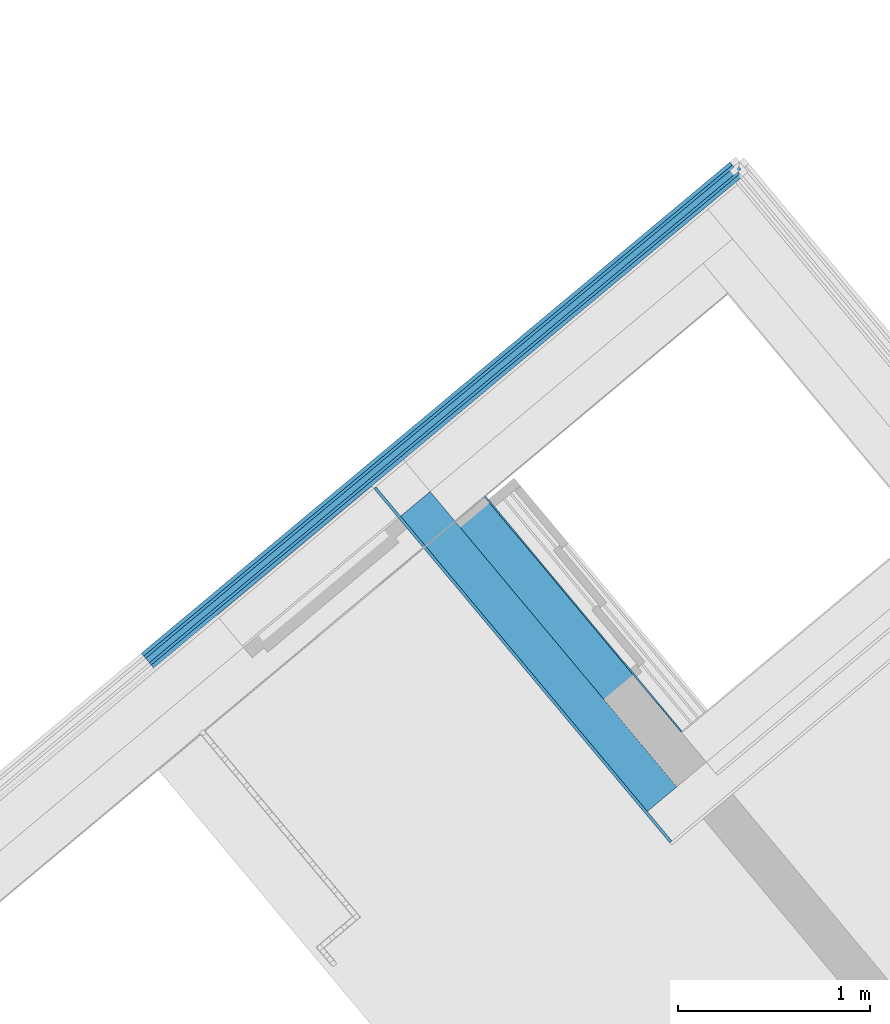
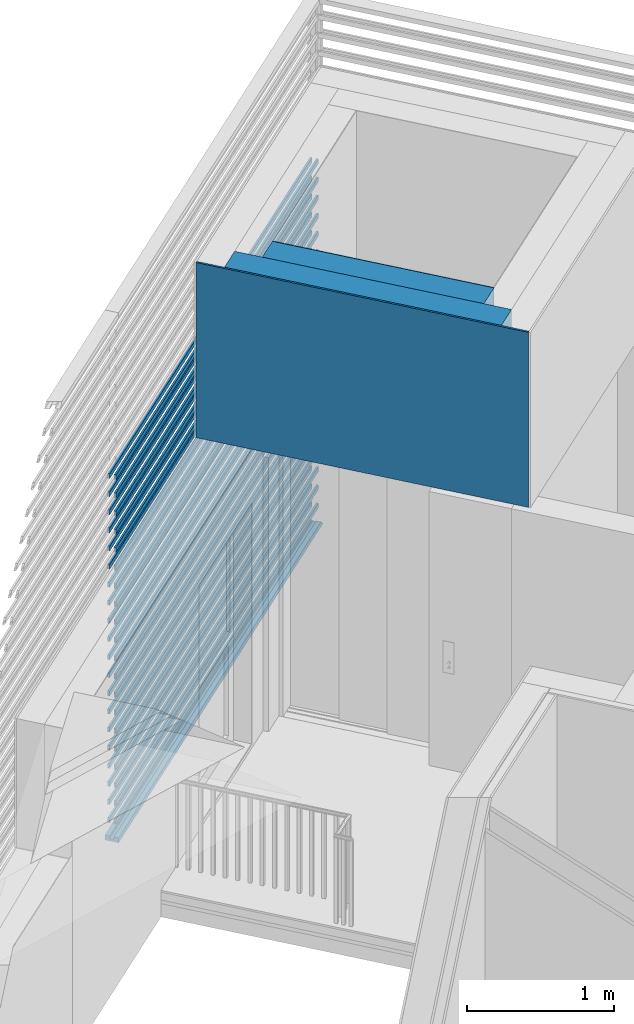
# One storey, part 26 of 47: 25 building element parts, 2 elements without a shape of their own.
"""IFC4 building model written with IfcOpenShell, lengths in metres."""

from ifc_helpers import new_model, entity, si_unit, converted_unit, derived_unit, direction, frame, origin_with_axes, place, context, subcontext, project, spatial, polygons, material, type_object, element, aggregate, save


model = new_model("IFC4")

# Units and contexts
model_context = context("Model", 3, precision=1e-05, world=origin_with_axes(), true_north=direction((0.0, 1.0)))
body_context = subcontext(model_context, "Body", "Model", "MODEL_VIEW")
ifc_project = project(units=[si_unit("LENGTHUNIT", "METRE"), si_unit("AREAUNIT", "SQUARE_METRE"), si_unit("VOLUMEUNIT", "CUBIC_METRE"), converted_unit("PLANEANGLEUNIT", "DEGREE", entity("IfcPlaneAngleMeasure", 0.0174532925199), si_unit("PLANEANGLEUNIT", "RADIAN"), dimensions=[0, 0, 0, 0, 0, 0, 0]), converted_unit("TIMEUNIT", "Year", entity("IfcTimeMeasure", 31556926.0), si_unit("TIMEUNIT", "SECOND"), dimensions=[0, 0, 1, 0, 0, 0, 0]), si_unit("MASSUNIT", "GRAM", prefix="KILO"), si_unit("THERMODYNAMICTEMPERATUREUNIT", "DEGREE_CELSIUS"), si_unit("LUMINOUSINTENSITYUNIT", "LUMEN"), si_unit("ENERGYUNIT", "JOULE", prefix="MEGA"), derived_unit("THERMALCONDUCTANCEUNIT", [(si_unit("POWERUNIT", "WATT"), 1), (si_unit("LENGTHUNIT", "METRE"), -1), (si_unit("THERMODYNAMICTEMPERATUREUNIT", "KELVIN"), -1)]), derived_unit("SPECIFICHEATCAPACITYUNIT", [(si_unit("ENERGYUNIT", "JOULE"), 1), (si_unit("MASSUNIT", "GRAM", prefix="KILO"), -1), (si_unit("THERMODYNAMICTEMPERATUREUNIT", "KELVIN"), -1)]), derived_unit("MASSDENSITYUNIT", [(si_unit("MASSUNIT", "GRAM", prefix="KILO"), 1), (si_unit("VOLUMEUNIT", "CUBIC_METRE"), -1)])], contexts=[model_context])

# Site, building, storey
site_placement = place(None, frame((-0.00153261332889, -0.00661245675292, 0.0), z_axis=(0.0, 0.0, 1.0), x_axis=(1.0, 0.0, 0.0)))
site = spatial("IfcSite", under=ifc_project, at=site_placement, Name="Site", CompositionType="ELEMENT")
building_placement = place(site_placement, origin_with_axes())
building = spatial("IfcBuilding", under=site, at=building_placement, Name="Building", CompositionType="ELEMENT")
storey_placement = place(building_placement, frame((0.0, 0.0, 8.66), z_axis=(0.0, 0.0, 1.0), x_axis=(1.0, 0.0, 0.0)))
storey = spatial("IfcBuildingStorey", under=building, at=storey_placement, Name="DG2", CompositionType="ELEMENT", Elevation=8.66)

# Curtain wall, building element parts
curtain_wall_type = type_object("IfcCurtainWallType", Name="Fassadentyp", PredefinedType="NOTDEFINED")
curtain_wall_placement = place(storey_placement, frame((-2.95253507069, 23.8775371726, 0.32), z_axis=(0.0, 0.0, 1.0), x_axis=(1.0, 0.0, 0.0)))
curtain_wall = element("IfcCurtainWall", 1, at=curtain_wall_placement, inside=storey, type_object=curtain_wall_type, Name="Fassade-001", PredefinedType="NOTDEFINED")
ifc_material_1 = material(Name="Blech")
building_element_part_1_placement = place(curtain_wall_placement, origin_with_axes())
building_element_part_1 = element("IfcBuildingElementPart", 2, at=building_element_part_1_placement, material=ifc_material_1, Name="Blech", PredefinedType="NOTDEFINED", context=body_context, shape_type="Tessellation", body=[
    polygons([(4.62335524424, 3.83828163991, 0.0), (4.60799902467, 3.8254681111, 0.02), (4.63042270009, 3.79859472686, 0.02), (4.66113513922, 3.82422178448, -0.02), (4.59706749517, 3.90100288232, -0.02), (4.56635505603, 3.8753758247, 0.02), (4.58877873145, 3.84850244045, 0.02), (4.60413495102, 3.86131596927, 0.0), (1.54752517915, 1.27174910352, 0.0), (1.54752517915, 1.27174910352, 0.02), (1.56994885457, 1.24487571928, 0.02), (1.56994885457, 1.24487571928, -0.02), (1.50588121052, 1.32165681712, -0.02), (1.50588121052, 1.32165681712, 0.02), (1.52830488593, 1.29478343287, 0.02), (1.52830488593, 1.29478343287, 0.0)], [[[1, 2, 3, 4, 5, 6, 7, 8]], [[1, 9, 10, 2]], [[10, 11, 3, 2]], [[11, 12, 4, 3]], [[12, 13, 5, 4]], [[13, 14, 6, 5]], [[7, 6, 14, 15]], [[15, 16, 8, 7]], [[8, 16, 9, 1]], [[9, 16, 15, 14, 13, 12, 11, 10]]], closed=True),
])
building_element_part_2_placement = place(curtain_wall_placement, origin_with_axes())
building_element_part_2 = element("IfcBuildingElementPart", 3, at=building_element_part_2_placement, material=ifc_material_1, Name="Blech", PredefinedType="NOTDEFINED", context=body_context, shape_type="Tessellation", body=[
    polygons([(1.54752517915, 1.27174910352, 2.4), (1.54752517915, 1.27174910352, 2.42), (4.60799902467, 3.8254681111, 2.42), (4.60799902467, 3.8254681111, 2.4), (4.60799902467, 3.8254681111, 2.38), (1.54752517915, 1.27174910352, 2.38), (1.55713532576, 1.26023193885, 2.38), (1.55713532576, 1.26023193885, 2.42), (4.61760917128, 3.81395094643, 2.42), (4.61760917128, 3.81395094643, 2.38)], [[[1, 2, 3, 4, 5, 6]], [[6, 7, 8, 2, 1]], [[3, 2, 8, 9]], [[4, 3, 9, 10, 5]], [[5, 10, 7, 6]], [[9, 8, 7, 10]]], closed=True),
    polygons([(4.58877873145, 3.84850244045, 2.38), (4.57916858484, 3.86001960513, 2.38), (4.57916858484, 3.86001960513, 2.42), (4.58877873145, 3.84850244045, 2.42), (4.58877873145, 3.84850244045, 2.4), (1.52830488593, 1.29478343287, 2.38), (1.51869473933, 1.30630059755, 2.38), (1.51869473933, 1.30630059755, 2.42), (1.52830488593, 1.29478343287, 2.42), (1.52830488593, 1.29478343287, 2.4)], [[[1, 2, 3, 4, 5]], [[6, 7, 2, 1]], [[2, 7, 8, 3]], [[9, 4, 3, 8]], [[5, 4, 9, 10, 6, 1]], [[10, 9, 8, 7, 6]]], closed=True),
])
building_element_part_3_placement = place(curtain_wall_placement, origin_with_axes())
building_element_part_3 = element("IfcBuildingElementPart", 4, at=building_element_part_3_placement, material=ifc_material_1, Name="Blech", PredefinedType="NOTDEFINED", context=body_context, shape_type="Tessellation", body=[
    polygons([(1.54752517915, 1.27174910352, 0.15), (1.54752517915, 1.27174910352, 0.17), (4.60799902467, 3.8254681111, 0.17), (4.60799902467, 3.8254681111, 0.15), (4.60799902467, 3.8254681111, 0.13), (1.54752517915, 1.27174910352, 0.13), (1.55713532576, 1.26023193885, 0.13), (1.55713532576, 1.26023193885, 0.17), (4.61760917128, 3.81395094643, 0.17), (4.61760917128, 3.81395094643, 0.13)], [[[1, 2, 3, 4, 5, 6]], [[6, 7, 8, 2, 1]], [[3, 2, 8, 9]], [[4, 3, 9, 10, 5]], [[5, 10, 7, 6]], [[9, 8, 7, 10]]], closed=True),
    polygons([(4.58877873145, 3.84850244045, 0.13), (4.57916858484, 3.86001960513, 0.13), (4.57916858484, 3.86001960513, 0.17), (4.58877873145, 3.84850244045, 0.17), (4.58877873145, 3.84850244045, 0.15), (1.52830488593, 1.29478343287, 0.13), (1.51869473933, 1.30630059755, 0.13), (1.51869473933, 1.30630059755, 0.17), (1.52830488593, 1.29478343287, 0.17), (1.52830488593, 1.29478343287, 0.15)], [[[1, 2, 3, 4, 5]], [[6, 7, 2, 1]], [[2, 7, 8, 3]], [[9, 4, 3, 8]], [[5, 4, 9, 10, 6, 1]], [[10, 9, 8, 7, 6]]], closed=True),
])
building_element_part_4_placement = place(curtain_wall_placement, origin_with_axes())
building_element_part_4 = element("IfcBuildingElementPart", 5, at=building_element_part_4_placement, material=ifc_material_1, Name="Blech", PredefinedType="NOTDEFINED", context=body_context, shape_type="Tessellation", body=[
    polygons([(1.54752517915, 1.27174910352, 0.3), (1.54752517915, 1.27174910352, 0.32), (4.60799902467, 3.8254681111, 0.32), (4.60799902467, 3.8254681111, 0.3), (4.60799902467, 3.8254681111, 0.28), (1.54752517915, 1.27174910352, 0.28), (1.55713532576, 1.26023193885, 0.28), (1.55713532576, 1.26023193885, 0.32), (4.61760917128, 3.81395094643, 0.32), (4.61760917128, 3.81395094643, 0.28)], [[[1, 2, 3, 4, 5, 6]], [[6, 7, 8, 2, 1]], [[3, 2, 8, 9]], [[4, 3, 9, 10, 5]], [[5, 10, 7, 6]], [[9, 8, 7, 10]]], closed=True),
    polygons([(4.58877873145, 3.84850244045, 0.28), (4.57916858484, 3.86001960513, 0.28), (4.57916858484, 3.86001960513, 0.32), (4.58877873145, 3.84850244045, 0.32), (4.58877873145, 3.84850244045, 0.3), (1.52830488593, 1.29478343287, 0.28), (1.51869473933, 1.30630059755, 0.28), (1.51869473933, 1.30630059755, 0.32), (1.52830488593, 1.29478343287, 0.32), (1.52830488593, 1.29478343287, 0.3)], [[[1, 2, 3, 4, 5]], [[6, 7, 2, 1]], [[2, 7, 8, 3]], [[9, 4, 3, 8]], [[5, 4, 9, 10, 6, 1]], [[10, 9, 8, 7, 6]]], closed=True),
])
building_element_part_5_placement = place(curtain_wall_placement, origin_with_axes())
building_element_part_5 = element("IfcBuildingElementPart", 6, at=building_element_part_5_placement, material=ifc_material_1, Name="Blech", PredefinedType="NOTDEFINED", context=body_context, shape_type="Tessellation", body=[
    polygons([(1.54752517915, 1.27174910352, 3.0), (1.54752517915, 1.27174910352, 3.02), (4.60799902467, 3.8254681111, 3.02), (4.60799902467, 3.8254681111, 3.0), (4.60799902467, 3.8254681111, 2.98), (1.54752517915, 1.27174910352, 2.98), (1.55713532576, 1.26023193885, 2.98), (1.55713532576, 1.26023193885, 3.02), (4.61760917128, 3.81395094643, 3.02), (4.61760917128, 3.81395094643, 2.98)], [[[1, 2, 3, 4, 5, 6]], [[6, 7, 8, 2, 1]], [[3, 2, 8, 9]], [[4, 3, 9, 10, 5]], [[5, 10, 7, 6]], [[9, 8, 7, 10]]], closed=True),
    polygons([(4.58877873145, 3.84850244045, 2.98), (4.57916858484, 3.86001960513, 2.98), (4.57916858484, 3.86001960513, 3.02), (4.58877873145, 3.84850244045, 3.02), (4.58877873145, 3.84850244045, 3.0), (1.52830488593, 1.29478343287, 2.98), (1.51869473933, 1.30630059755, 2.98), (1.51869473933, 1.30630059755, 3.02), (1.52830488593, 1.29478343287, 3.02), (1.52830488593, 1.29478343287, 3.0)], [[[1, 2, 3, 4, 5]], [[6, 7, 2, 1]], [[2, 7, 8, 3]], [[9, 4, 3, 8]], [[5, 4, 9, 10, 6, 1]], [[10, 9, 8, 7, 6]]], closed=True),
])
building_element_part_6_placement = place(curtain_wall_placement, origin_with_axes())
building_element_part_6 = element("IfcBuildingElementPart", 7, at=building_element_part_6_placement, material=ifc_material_1, Name="Blech", PredefinedType="NOTDEFINED", context=body_context, shape_type="Tessellation", body=[
    polygons([(1.54752517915, 1.27174910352, 0.45), (1.54752517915, 1.27174910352, 0.47), (4.60799902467, 3.8254681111, 0.47), (4.60799902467, 3.8254681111, 0.45), (4.60799902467, 3.8254681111, 0.43), (1.54752517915, 1.27174910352, 0.43), (1.55713532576, 1.26023193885, 0.43), (1.55713532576, 1.26023193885, 0.47), (4.61760917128, 3.81395094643, 0.47), (4.61760917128, 3.81395094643, 0.43)], [[[1, 2, 3, 4, 5, 6]], [[6, 7, 8, 2, 1]], [[3, 2, 8, 9]], [[4, 3, 9, 10, 5]], [[5, 10, 7, 6]], [[9, 8, 7, 10]]], closed=True),
    polygons([(4.58877873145, 3.84850244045, 0.43), (4.57916858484, 3.86001960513, 0.43), (4.57916858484, 3.86001960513, 0.47), (4.58877873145, 3.84850244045, 0.47), (4.58877873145, 3.84850244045, 0.45), (1.52830488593, 1.29478343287, 0.43), (1.51869473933, 1.30630059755, 0.43), (1.51869473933, 1.30630059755, 0.47), (1.52830488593, 1.29478343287, 0.47), (1.52830488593, 1.29478343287, 0.45)], [[[1, 2, 3, 4, 5]], [[6, 7, 2, 1]], [[2, 7, 8, 3]], [[9, 4, 3, 8]], [[5, 4, 9, 10, 6, 1]], [[10, 9, 8, 7, 6]]], closed=True),
])
building_element_part_7_placement = place(curtain_wall_placement, origin_with_axes())
building_element_part_7 = element("IfcBuildingElementPart", 8, at=building_element_part_7_placement, material=ifc_material_1, Name="Blech", PredefinedType="NOTDEFINED", context=body_context, shape_type="Tessellation", body=[
    polygons([(1.54752517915, 1.27174910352, 2.85), (1.54752517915, 1.27174910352, 2.87), (4.60799902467, 3.8254681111, 2.87), (4.60799902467, 3.8254681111, 2.85), (4.60799902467, 3.8254681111, 2.83), (1.54752517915, 1.27174910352, 2.83), (1.55713532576, 1.26023193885, 2.83), (1.55713532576, 1.26023193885, 2.87), (4.61760917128, 3.81395094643, 2.87), (4.61760917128, 3.81395094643, 2.83)], [[[1, 2, 3, 4, 5, 6]], [[6, 7, 8, 2, 1]], [[3, 2, 8, 9]], [[4, 3, 9, 10, 5]], [[5, 10, 7, 6]], [[9, 8, 7, 10]]], closed=True),
    polygons([(4.58877873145, 3.84850244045, 2.83), (4.57916858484, 3.86001960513, 2.83), (4.57916858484, 3.86001960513, 2.87), (4.58877873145, 3.84850244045, 2.87), (4.58877873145, 3.84850244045, 2.85), (1.52830488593, 1.29478343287, 2.83), (1.51869473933, 1.30630059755, 2.83), (1.51869473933, 1.30630059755, 2.87), (1.52830488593, 1.29478343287, 2.87), (1.52830488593, 1.29478343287, 2.85)], [[[1, 2, 3, 4, 5]], [[6, 7, 2, 1]], [[2, 7, 8, 3]], [[9, 4, 3, 8]], [[5, 4, 9, 10, 6, 1]], [[10, 9, 8, 7, 6]]], closed=True),
])
building_element_part_8_placement = place(curtain_wall_placement, origin_with_axes())
building_element_part_8 = element("IfcBuildingElementPart", 9, at=building_element_part_8_placement, material=ifc_material_1, Name="Blech", PredefinedType="NOTDEFINED", context=body_context, shape_type="Tessellation", body=[
    polygons([(1.54752517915, 1.27174910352, 0.6), (1.54752517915, 1.27174910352, 0.62), (4.60799902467, 3.8254681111, 0.62), (4.60799902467, 3.8254681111, 0.6), (4.60799902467, 3.8254681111, 0.58), (1.54752517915, 1.27174910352, 0.58), (1.55713532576, 1.26023193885, 0.58), (1.55713532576, 1.26023193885, 0.62), (4.61760917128, 3.81395094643, 0.62), (4.61760917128, 3.81395094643, 0.58)], [[[1, 2, 3, 4, 5, 6]], [[6, 7, 8, 2, 1]], [[3, 2, 8, 9]], [[4, 3, 9, 10, 5]], [[5, 10, 7, 6]], [[9, 8, 7, 10]]], closed=True),
    polygons([(4.58877873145, 3.84850244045, 0.58), (4.57916858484, 3.86001960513, 0.58), (4.57916858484, 3.86001960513, 0.62), (4.58877873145, 3.84850244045, 0.62), (4.58877873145, 3.84850244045, 0.6), (1.52830488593, 1.29478343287, 0.58), (1.51869473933, 1.30630059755, 0.58), (1.51869473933, 1.30630059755, 0.62), (1.52830488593, 1.29478343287, 0.62), (1.52830488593, 1.29478343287, 0.6)], [[[1, 2, 3, 4, 5]], [[6, 7, 2, 1]], [[2, 7, 8, 3]], [[9, 4, 3, 8]], [[5, 4, 9, 10, 6, 1]], [[10, 9, 8, 7, 6]]], closed=True),
])
building_element_part_9_placement = place(curtain_wall_placement, origin_with_axes())
building_element_part_9 = element("IfcBuildingElementPart", 10, at=building_element_part_9_placement, material=ifc_material_1, Name="Blech", PredefinedType="NOTDEFINED", context=body_context, shape_type="Tessellation", body=[
    polygons([(1.54752517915, 1.27174910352, 0.75), (1.54752517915, 1.27174910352, 0.77), (4.60799902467, 3.8254681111, 0.77), (4.60799902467, 3.8254681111, 0.75), (4.60799902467, 3.8254681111, 0.73), (1.54752517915, 1.27174910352, 0.73), (1.55713532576, 1.26023193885, 0.73), (1.55713532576, 1.26023193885, 0.77), (4.61760917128, 3.81395094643, 0.77), (4.61760917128, 3.81395094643, 0.73)], [[[1, 2, 3, 4, 5, 6]], [[6, 7, 8, 2, 1]], [[3, 2, 8, 9]], [[4, 3, 9, 10, 5]], [[5, 10, 7, 6]], [[9, 8, 7, 10]]], closed=True),
    polygons([(4.58877873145, 3.84850244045, 0.73), (4.57916858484, 3.86001960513, 0.73), (4.57916858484, 3.86001960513, 0.77), (4.58877873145, 3.84850244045, 0.77), (4.58877873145, 3.84850244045, 0.75), (1.52830488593, 1.29478343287, 0.73), (1.51869473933, 1.30630059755, 0.73), (1.51869473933, 1.30630059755, 0.77), (1.52830488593, 1.29478343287, 0.77), (1.52830488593, 1.29478343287, 0.75)], [[[1, 2, 3, 4, 5]], [[6, 7, 2, 1]], [[2, 7, 8, 3]], [[9, 4, 3, 8]], [[5, 4, 9, 10, 6, 1]], [[10, 9, 8, 7, 6]]], closed=True),
])
building_element_part_10_placement = place(curtain_wall_placement, origin_with_axes())
building_element_part_10 = element("IfcBuildingElementPart", 11, at=building_element_part_10_placement, material=ifc_material_1, Name="Blech", PredefinedType="NOTDEFINED", context=body_context, shape_type="Tessellation", body=[
    polygons([(1.54752517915, 1.27174910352, 0.9), (1.54752517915, 1.27174910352, 0.92), (4.60799902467, 3.8254681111, 0.92), (4.60799902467, 3.8254681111, 0.9), (4.60799902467, 3.8254681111, 0.88), (1.54752517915, 1.27174910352, 0.88), (1.55713532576, 1.26023193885, 0.88), (1.55713532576, 1.26023193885, 0.92), (4.61760917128, 3.81395094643, 0.92), (4.61760917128, 3.81395094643, 0.88)], [[[1, 2, 3, 4, 5, 6]], [[6, 7, 8, 2, 1]], [[3, 2, 8, 9]], [[4, 3, 9, 10, 5]], [[5, 10, 7, 6]], [[9, 8, 7, 10]]], closed=True),
    polygons([(4.58877873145, 3.84850244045, 0.88), (4.57916858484, 3.86001960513, 0.88), (4.57916858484, 3.86001960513, 0.92), (4.58877873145, 3.84850244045, 0.92), (4.58877873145, 3.84850244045, 0.9), (1.52830488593, 1.29478343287, 0.88), (1.51869473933, 1.30630059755, 0.88), (1.51869473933, 1.30630059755, 0.92), (1.52830488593, 1.29478343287, 0.92), (1.52830488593, 1.29478343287, 0.9)], [[[1, 2, 3, 4, 5]], [[6, 7, 2, 1]], [[2, 7, 8, 3]], [[9, 4, 3, 8]], [[5, 4, 9, 10, 6, 1]], [[10, 9, 8, 7, 6]]], closed=True),
])
building_element_part_11_placement = place(curtain_wall_placement, origin_with_axes())
building_element_part_11 = element("IfcBuildingElementPart", 12, at=building_element_part_11_placement, material=ifc_material_1, Name="Blech", PredefinedType="NOTDEFINED", context=body_context, shape_type="Tessellation", body=[
    polygons([(1.54752517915, 1.27174910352, 1.05), (1.54752517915, 1.27174910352, 1.07), (4.60799902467, 3.8254681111, 1.07), (4.60799902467, 3.8254681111, 1.05), (4.60799902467, 3.8254681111, 1.03), (1.54752517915, 1.27174910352, 1.03), (1.55713532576, 1.26023193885, 1.03), (1.55713532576, 1.26023193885, 1.07), (4.61760917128, 3.81395094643, 1.07), (4.61760917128, 3.81395094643, 1.03)], [[[1, 2, 3, 4, 5, 6]], [[6, 7, 8, 2, 1]], [[3, 2, 8, 9]], [[4, 3, 9, 10, 5]], [[5, 10, 7, 6]], [[9, 8, 7, 10]]], closed=True),
    polygons([(4.58877873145, 3.84850244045, 1.03), (4.57916858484, 3.86001960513, 1.03), (4.57916858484, 3.86001960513, 1.07), (4.58877873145, 3.84850244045, 1.07), (4.58877873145, 3.84850244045, 1.05), (1.52830488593, 1.29478343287, 1.03), (1.51869473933, 1.30630059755, 1.03), (1.51869473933, 1.30630059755, 1.07), (1.52830488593, 1.29478343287, 1.07), (1.52830488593, 1.29478343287, 1.05)], [[[1, 2, 3, 4, 5]], [[6, 7, 2, 1]], [[2, 7, 8, 3]], [[9, 4, 3, 8]], [[5, 4, 9, 10, 6, 1]], [[10, 9, 8, 7, 6]]], closed=True),
])
building_element_part_12_placement = place(curtain_wall_placement, origin_with_axes())
building_element_part_12 = element("IfcBuildingElementPart", 13, at=building_element_part_12_placement, material=ifc_material_1, Name="Blech", PredefinedType="NOTDEFINED", context=body_context, shape_type="Tessellation", body=[
    polygons([(1.54752517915, 1.27174910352, 2.7), (1.54752517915, 1.27174910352, 2.72), (4.60799902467, 3.8254681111, 2.72), (4.60799902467, 3.8254681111, 2.7), (4.60799902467, 3.8254681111, 2.68), (1.54752517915, 1.27174910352, 2.68), (1.55713532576, 1.26023193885, 2.68), (1.55713532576, 1.26023193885, 2.72), (4.61760917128, 3.81395094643, 2.72), (4.61760917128, 3.81395094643, 2.68)], [[[1, 2, 3, 4, 5, 6]], [[6, 7, 8, 2, 1]], [[3, 2, 8, 9]], [[4, 3, 9, 10, 5]], [[5, 10, 7, 6]], [[9, 8, 7, 10]]], closed=True),
    polygons([(4.58877873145, 3.84850244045, 2.68), (4.57916858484, 3.86001960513, 2.68), (4.57916858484, 3.86001960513, 2.72), (4.58877873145, 3.84850244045, 2.72), (4.58877873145, 3.84850244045, 2.7), (1.52830488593, 1.29478343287, 2.68), (1.51869473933, 1.30630059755, 2.68), (1.51869473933, 1.30630059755, 2.72), (1.52830488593, 1.29478343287, 2.72), (1.52830488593, 1.29478343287, 2.7)], [[[1, 2, 3, 4, 5]], [[6, 7, 2, 1]], [[2, 7, 8, 3]], [[9, 4, 3, 8]], [[5, 4, 9, 10, 6, 1]], [[10, 9, 8, 7, 6]]], closed=True),
])
building_element_part_13_placement = place(curtain_wall_placement, origin_with_axes())
building_element_part_13 = element("IfcBuildingElementPart", 14, at=building_element_part_13_placement, material=ifc_material_1, Name="Blech", PredefinedType="NOTDEFINED", context=body_context, shape_type="Tessellation", body=[
    polygons([(1.54752517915, 1.27174910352, 1.2), (1.54752517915, 1.27174910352, 1.22), (4.60799902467, 3.8254681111, 1.22), (4.60799902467, 3.8254681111, 1.2), (4.60799902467, 3.8254681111, 1.18), (1.54752517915, 1.27174910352, 1.18), (1.55713532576, 1.26023193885, 1.18), (1.55713532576, 1.26023193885, 1.22), (4.61760917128, 3.81395094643, 1.22), (4.61760917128, 3.81395094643, 1.18)], [[[1, 2, 3, 4, 5, 6]], [[6, 7, 8, 2, 1]], [[3, 2, 8, 9]], [[4, 3, 9, 10, 5]], [[5, 10, 7, 6]], [[9, 8, 7, 10]]], closed=True),
    polygons([(4.58877873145, 3.84850244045, 1.18), (4.57916858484, 3.86001960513, 1.18), (4.57916858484, 3.86001960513, 1.22), (4.58877873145, 3.84850244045, 1.22), (4.58877873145, 3.84850244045, 1.2), (1.52830488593, 1.29478343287, 1.18), (1.51869473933, 1.30630059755, 1.18), (1.51869473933, 1.30630059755, 1.22), (1.52830488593, 1.29478343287, 1.22), (1.52830488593, 1.29478343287, 1.2)], [[[1, 2, 3, 4, 5]], [[6, 7, 2, 1]], [[2, 7, 8, 3]], [[9, 4, 3, 8]], [[5, 4, 9, 10, 6, 1]], [[10, 9, 8, 7, 6]]], closed=True),
])
building_element_part_14_placement = place(curtain_wall_placement, origin_with_axes())
building_element_part_14 = element("IfcBuildingElementPart", 15, at=building_element_part_14_placement, material=ifc_material_1, Name="Blech", PredefinedType="NOTDEFINED", context=body_context, shape_type="Tessellation", body=[
    polygons([(1.54752517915, 1.27174910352, 1.35), (1.54752517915, 1.27174910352, 1.37), (4.60799902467, 3.8254681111, 1.37), (4.60799902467, 3.8254681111, 1.35), (4.60799902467, 3.8254681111, 1.33), (1.54752517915, 1.27174910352, 1.33), (1.55713532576, 1.26023193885, 1.33), (1.55713532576, 1.26023193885, 1.37), (4.61760917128, 3.81395094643, 1.37), (4.61760917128, 3.81395094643, 1.33)], [[[1, 2, 3, 4, 5, 6]], [[6, 7, 8, 2, 1]], [[3, 2, 8, 9]], [[4, 3, 9, 10, 5]], [[5, 10, 7, 6]], [[9, 8, 7, 10]]], closed=True),
    polygons([(4.58877873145, 3.84850244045, 1.33), (4.57916858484, 3.86001960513, 1.33), (4.57916858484, 3.86001960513, 1.37), (4.58877873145, 3.84850244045, 1.37), (4.58877873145, 3.84850244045, 1.35), (1.52830488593, 1.29478343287, 1.33), (1.51869473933, 1.30630059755, 1.33), (1.51869473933, 1.30630059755, 1.37), (1.52830488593, 1.29478343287, 1.37), (1.52830488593, 1.29478343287, 1.35)], [[[1, 2, 3, 4, 5]], [[6, 7, 2, 1]], [[2, 7, 8, 3]], [[9, 4, 3, 8]], [[5, 4, 9, 10, 6, 1]], [[10, 9, 8, 7, 6]]], closed=True),
])
building_element_part_15_placement = place(curtain_wall_placement, origin_with_axes())
building_element_part_15 = element("IfcBuildingElementPart", 16, at=building_element_part_15_placement, material=ifc_material_1, Name="Blech", PredefinedType="NOTDEFINED", context=body_context, shape_type="Tessellation", body=[
    polygons([(1.54752517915, 1.27174910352, 2.25), (1.54752517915, 1.27174910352, 2.27), (4.60799902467, 3.8254681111, 2.27), (4.60799902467, 3.8254681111, 2.25), (4.60799902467, 3.8254681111, 2.23), (1.54752517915, 1.27174910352, 2.23), (1.55713532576, 1.26023193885, 2.23), (1.55713532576, 1.26023193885, 2.27), (4.61760917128, 3.81395094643, 2.27), (4.61760917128, 3.81395094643, 2.23)], [[[1, 2, 3, 4, 5, 6]], [[6, 7, 8, 2, 1]], [[3, 2, 8, 9]], [[4, 3, 9, 10, 5]], [[5, 10, 7, 6]], [[9, 8, 7, 10]]], closed=True),
    polygons([(4.58877873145, 3.84850244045, 2.23), (4.57916858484, 3.86001960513, 2.23), (4.57916858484, 3.86001960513, 2.27), (4.58877873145, 3.84850244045, 2.27), (4.58877873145, 3.84850244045, 2.25), (1.52830488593, 1.29478343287, 2.23), (1.51869473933, 1.30630059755, 2.23), (1.51869473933, 1.30630059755, 2.27), (1.52830488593, 1.29478343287, 2.27), (1.52830488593, 1.29478343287, 2.25)], [[[1, 2, 3, 4, 5]], [[6, 7, 2, 1]], [[2, 7, 8, 3]], [[9, 4, 3, 8]], [[5, 4, 9, 10, 6, 1]], [[10, 9, 8, 7, 6]]], closed=True),
])
building_element_part_16_placement = place(curtain_wall_placement, origin_with_axes())
building_element_part_16 = element("IfcBuildingElementPart", 17, at=building_element_part_16_placement, material=ifc_material_1, Name="Blech", PredefinedType="NOTDEFINED", context=body_context, shape_type="Tessellation", body=[
    polygons([(1.54752517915, 1.27174910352, 1.5), (1.54752517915, 1.27174910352, 1.52), (4.60799902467, 3.8254681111, 1.52), (4.60799902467, 3.8254681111, 1.5), (4.60799902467, 3.8254681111, 1.48), (1.54752517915, 1.27174910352, 1.48), (1.55713532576, 1.26023193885, 1.48), (1.55713532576, 1.26023193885, 1.52), (4.61760917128, 3.81395094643, 1.52), (4.61760917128, 3.81395094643, 1.48)], [[[1, 2, 3, 4, 5, 6]], [[6, 7, 8, 2, 1]], [[3, 2, 8, 9]], [[4, 3, 9, 10, 5]], [[5, 10, 7, 6]], [[9, 8, 7, 10]]], closed=True),
    polygons([(4.58877873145, 3.84850244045, 1.48), (4.57916858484, 3.86001960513, 1.48), (4.57916858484, 3.86001960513, 1.52), (4.58877873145, 3.84850244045, 1.52), (4.58877873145, 3.84850244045, 1.5), (1.52830488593, 1.29478343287, 1.48), (1.51869473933, 1.30630059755, 1.48), (1.51869473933, 1.30630059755, 1.52), (1.52830488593, 1.29478343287, 1.52), (1.52830488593, 1.29478343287, 1.5)], [[[1, 2, 3, 4, 5]], [[6, 7, 2, 1]], [[2, 7, 8, 3]], [[9, 4, 3, 8]], [[5, 4, 9, 10, 6, 1]], [[10, 9, 8, 7, 6]]], closed=True),
])
building_element_part_17_placement = place(curtain_wall_placement, origin_with_axes())
building_element_part_17 = element("IfcBuildingElementPart", 18, at=building_element_part_17_placement, material=ifc_material_1, Name="Blech", PredefinedType="NOTDEFINED", context=body_context, shape_type="Tessellation", body=[
    polygons([(1.54752517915, 1.27174910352, 2.55), (1.54752517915, 1.27174910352, 2.57), (4.60799902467, 3.8254681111, 2.57), (4.60799902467, 3.8254681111, 2.55), (4.60799902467, 3.8254681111, 2.53), (1.54752517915, 1.27174910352, 2.53), (1.55713532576, 1.26023193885, 2.53), (1.55713532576, 1.26023193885, 2.57), (4.61760917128, 3.81395094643, 2.57), (4.61760917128, 3.81395094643, 2.53)], [[[1, 2, 3, 4, 5, 6]], [[6, 7, 8, 2, 1]], [[3, 2, 8, 9]], [[4, 3, 9, 10, 5]], [[5, 10, 7, 6]], [[9, 8, 7, 10]]], closed=True),
    polygons([(4.58877873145, 3.84850244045, 2.53), (4.57916858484, 3.86001960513, 2.53), (4.57916858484, 3.86001960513, 2.57), (4.58877873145, 3.84850244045, 2.57), (4.58877873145, 3.84850244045, 2.55), (1.52830488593, 1.29478343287, 2.53), (1.51869473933, 1.30630059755, 2.53), (1.51869473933, 1.30630059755, 2.57), (1.52830488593, 1.29478343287, 2.57), (1.52830488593, 1.29478343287, 2.55)], [[[1, 2, 3, 4, 5]], [[6, 7, 2, 1]], [[2, 7, 8, 3]], [[9, 4, 3, 8]], [[5, 4, 9, 10, 6, 1]], [[10, 9, 8, 7, 6]]], closed=True),
])
building_element_part_18_placement = place(curtain_wall_placement, origin_with_axes())
building_element_part_18 = element("IfcBuildingElementPart", 19, at=building_element_part_18_placement, material=ifc_material_1, Name="Blech", PredefinedType="NOTDEFINED", context=body_context, shape_type="Tessellation", body=[
    polygons([(1.54752517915, 1.27174910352, 1.65), (1.54752517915, 1.27174910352, 1.67), (4.60799902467, 3.8254681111, 1.67), (4.60799902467, 3.8254681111, 1.65), (4.60799902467, 3.8254681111, 1.63), (1.54752517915, 1.27174910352, 1.63), (1.55713532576, 1.26023193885, 1.63), (1.55713532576, 1.26023193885, 1.67), (4.61760917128, 3.81395094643, 1.67), (4.61760917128, 3.81395094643, 1.63)], [[[1, 2, 3, 4, 5, 6]], [[6, 7, 8, 2, 1]], [[3, 2, 8, 9]], [[4, 3, 9, 10, 5]], [[5, 10, 7, 6]], [[9, 8, 7, 10]]], closed=True),
    polygons([(4.58877873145, 3.84850244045, 1.63), (4.57916858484, 3.86001960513, 1.63), (4.57916858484, 3.86001960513, 1.67), (4.58877873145, 3.84850244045, 1.67), (4.58877873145, 3.84850244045, 1.65), (1.52830488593, 1.29478343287, 1.63), (1.51869473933, 1.30630059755, 1.63), (1.51869473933, 1.30630059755, 1.67), (1.52830488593, 1.29478343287, 1.67), (1.52830488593, 1.29478343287, 1.65)], [[[1, 2, 3, 4, 5]], [[6, 7, 2, 1]], [[2, 7, 8, 3]], [[9, 4, 3, 8]], [[5, 4, 9, 10, 6, 1]], [[10, 9, 8, 7, 6]]], closed=True),
])
building_element_part_19_placement = place(curtain_wall_placement, origin_with_axes())
building_element_part_19 = element("IfcBuildingElementPart", 20, at=building_element_part_19_placement, material=ifc_material_1, Name="Blech", PredefinedType="NOTDEFINED", context=body_context, shape_type="Tessellation", body=[
    polygons([(1.54752517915, 1.27174910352, 1.8), (1.54752517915, 1.27174910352, 1.82), (4.60799902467, 3.8254681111, 1.82), (4.60799902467, 3.8254681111, 1.8), (4.60799902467, 3.8254681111, 1.78), (1.54752517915, 1.27174910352, 1.78), (1.55713532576, 1.26023193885, 1.78), (1.55713532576, 1.26023193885, 1.82), (4.61760917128, 3.81395094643, 1.82), (4.61760917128, 3.81395094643, 1.78)], [[[1, 2, 3, 4, 5, 6]], [[6, 7, 8, 2, 1]], [[3, 2, 8, 9]], [[4, 3, 9, 10, 5]], [[5, 10, 7, 6]], [[9, 8, 7, 10]]], closed=True),
    polygons([(4.58877873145, 3.84850244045, 1.78), (4.57916858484, 3.86001960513, 1.78), (4.57916858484, 3.86001960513, 1.82), (4.58877873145, 3.84850244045, 1.82), (4.58877873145, 3.84850244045, 1.8), (1.52830488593, 1.29478343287, 1.78), (1.51869473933, 1.30630059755, 1.78), (1.51869473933, 1.30630059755, 1.82), (1.52830488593, 1.29478343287, 1.82), (1.52830488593, 1.29478343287, 1.8)], [[[1, 2, 3, 4, 5]], [[6, 7, 2, 1]], [[2, 7, 8, 3]], [[9, 4, 3, 8]], [[5, 4, 9, 10, 6, 1]], [[10, 9, 8, 7, 6]]], closed=True),
])
building_element_part_20_placement = place(curtain_wall_placement, origin_with_axes())
building_element_part_20 = element("IfcBuildingElementPart", 21, at=building_element_part_20_placement, material=ifc_material_1, Name="Blech", PredefinedType="NOTDEFINED", context=body_context, shape_type="Tessellation", body=[
    polygons([(1.54752517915, 1.27174910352, 1.95), (1.54752517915, 1.27174910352, 1.97), (4.60799902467, 3.8254681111, 1.97), (4.60799902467, 3.8254681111, 1.95), (4.60799902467, 3.8254681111, 1.93), (1.54752517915, 1.27174910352, 1.93), (1.55713532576, 1.26023193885, 1.93), (1.55713532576, 1.26023193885, 1.97), (4.61760917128, 3.81395094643, 1.97), (4.61760917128, 3.81395094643, 1.93)], [[[1, 2, 3, 4, 5, 6]], [[6, 7, 8, 2, 1]], [[3, 2, 8, 9]], [[4, 3, 9, 10, 5]], [[5, 10, 7, 6]], [[9, 8, 7, 10]]], closed=True),
    polygons([(4.58877873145, 3.84850244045, 1.93), (4.57916858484, 3.86001960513, 1.93), (4.57916858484, 3.86001960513, 1.97), (4.58877873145, 3.84850244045, 1.97), (4.58877873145, 3.84850244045, 1.95), (1.52830488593, 1.29478343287, 1.93), (1.51869473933, 1.30630059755, 1.93), (1.51869473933, 1.30630059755, 1.97), (1.52830488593, 1.29478343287, 1.97), (1.52830488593, 1.29478343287, 1.95)], [[[1, 2, 3, 4, 5]], [[6, 7, 2, 1]], [[2, 7, 8, 3]], [[9, 4, 3, 8]], [[5, 4, 9, 10, 6, 1]], [[10, 9, 8, 7, 6]]], closed=True),
])
building_element_part_21_placement = place(curtain_wall_placement, origin_with_axes())
building_element_part_21 = element("IfcBuildingElementPart", 22, at=building_element_part_21_placement, material=ifc_material_1, Name="Blech", PredefinedType="NOTDEFINED", context=body_context, shape_type="Tessellation", body=[
    polygons([(1.54752517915, 1.27174910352, 2.1), (1.54752517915, 1.27174910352, 2.12), (4.60799902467, 3.8254681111, 2.12), (4.60799902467, 3.8254681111, 2.1), (4.60799902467, 3.8254681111, 2.08), (1.54752517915, 1.27174910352, 2.08), (1.55713532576, 1.26023193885, 2.08), (1.55713532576, 1.26023193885, 2.12), (4.61760917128, 3.81395094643, 2.12), (4.61760917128, 3.81395094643, 2.08)], [[[1, 2, 3, 4, 5, 6]], [[6, 7, 8, 2, 1]], [[3, 2, 8, 9]], [[4, 3, 9, 10, 5]], [[5, 10, 7, 6]], [[9, 8, 7, 10]]], closed=True),
    polygons([(4.58877873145, 3.84850244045, 2.08), (4.57916858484, 3.86001960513, 2.08), (4.57916858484, 3.86001960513, 2.12), (4.58877873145, 3.84850244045, 2.12), (4.58877873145, 3.84850244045, 2.1), (1.52830488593, 1.29478343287, 2.08), (1.51869473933, 1.30630059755, 2.08), (1.51869473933, 1.30630059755, 2.12), (1.52830488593, 1.29478343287, 2.12), (1.52830488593, 1.29478343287, 2.1)], [[[1, 2, 3, 4, 5]], [[6, 7, 2, 1]], [[2, 7, 8, 3]], [[9, 4, 3, 8]], [[5, 4, 9, 10, 6, 1]], [[10, 9, 8, 7, 6]]], closed=True),
])
aggregate(curtain_wall, [building_element_part_1, building_element_part_2, building_element_part_3, building_element_part_4, building_element_part_5, building_element_part_6, building_element_part_7, building_element_part_8, building_element_part_9, building_element_part_10, building_element_part_11, building_element_part_12, building_element_part_13, building_element_part_14, building_element_part_15, building_element_part_16, building_element_part_17, building_element_part_18, building_element_part_19, building_element_part_20, building_element_part_21])

# Wall, building element parts
wall_type = type_object("IfcWallType", Name="AW EG 420", PredefinedType="NOTDEFINED")
wall_placement = place(storey_placement, frame((1.36342552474, 24.7858084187, 2.69), z_axis=(0.0, 0.0, 1.0), x_axis=(-0.641161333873, 0.767406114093, 0.0)))
wall = element("IfcWall", 23, at=wall_placement, inside=storey, type_object=wall_type, Name="Wand-002", PredefinedType="NOTDEFINED")
ifc_material_2 = material(Name="Zementputz")
building_element_part_22_placement = place(wall_placement, origin_with_axes())
building_element_part_22 = element("IfcBuildingElementPart", 24, at=building_element_part_22_placement, material=ifc_material_2, Name="Zementputz", PredefinedType="NOTDEFINED", context=body_context, shape_type="Tessellation", body=[
    polygons([(-0.400033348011, 0.415000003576, 1.45), (-0.400032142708, 0.4, 1.45), (2.00111958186, 0.4, 1.45), (2.00111863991, 0.415, 1.45), (-0.400032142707, 0.4, 0.29), (-0.400033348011, 0.415000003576, 0.29), (-0.400032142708, 0.4, 0.0), (2.00111958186, 0.4, 0.0), (2.00111863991, 0.415, 0.0), (-0.400033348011, 0.415, 0.0)], [[[1, 2, 3, 4]], [[5, 2, 1, 6]], [[2, 5, 7, 8, 3]], [[4, 3, 8, 9]], [[6, 1, 4, 9, 10]], [[5, 6, 10, 7]], [[7, 10, 9, 8]]], closed=True),
])
ifc_material_3 = material(Name="EPS 1")
building_element_part_23_placement = place(wall_placement, origin_with_axes())
building_element_part_23 = element("IfcBuildingElementPart", 25, at=building_element_part_23_placement, material=ifc_material_3, Name="EPS 1", PredefinedType="NOTDEFINED", context=body_context, shape_type="Tessellation", body=[
    polygons([(-0.200032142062, 0.4, 1.45), (-0.200016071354, 0.2, 1.45), (1.80113214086, 0.2, 1.45), (1.80111958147, 0.4, 1.45), (-0.200016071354, 0.2, 0.29), (-0.200032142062, 0.4, 0.29), (-0.200016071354, 0.2, 0.0), (1.80113214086, 0.2, 0.0), (1.80111958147, 0.4, 0.0), (-0.200032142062, 0.4, 0.0)], [[[1, 2, 3, 4]], [[5, 2, 1, 6]], [[2, 5, 7, 8, 3]], [[4, 3, 8, 9]], [[6, 1, 4, 9, 10]], [[5, 6, 10, 7]], [[7, 10, 9, 8]]], closed=True),
])
ifc_material_4 = material(Name="Stahlbeton Wand")
building_element_part_24_placement = place(wall_placement, origin_with_axes())
building_element_part_24 = element("IfcBuildingElementPart", 26, at=building_element_part_24_placement, material=ifc_material_4, Name="Stahlbeton Wand", PredefinedType="NOTDEFINED", context=body_context, shape_type="Tessellation", body=[
    polygons([(-1.60707081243e-05, 0.2, 1.45), (0.0, 0.0, 1.45), (1.60114469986, 0.0, 1.45), (1.60113214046, 0.2, 1.45), (0.0, 0.0, 0.29), (-1.60707078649e-05, 0.2, 0.29), (0.0, 0.0, 0.0), (1.60114469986, 0.0, 0.0), (1.60113214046, 0.2, 0.0), (-1.60707081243e-05, 0.2, 0.0)], [[[1, 2, 3, 4]], [[5, 2, 1, 6]], [[2, 5, 7, 8, 3]], [[4, 3, 8, 9]], [[6, 1, 4, 9, 10]], [[5, 6, 10, 7]], [[7, 10, 9, 8]]], closed=True),
])
building_element_part_25_placement = place(wall_placement, origin_with_axes())
building_element_part_25 = element("IfcBuildingElementPart", 27, at=building_element_part_25_placement, material=ifc_material_2, Name="Zementputz", PredefinedType="NOTDEFINED", context=body_context, shape_type="Tessellation", body=[
    polygons([(0.00500000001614, 0.0, 1.45), (0.00500040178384, -0.005, 1.45), (1.59614501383, -0.005, 1.45), (1.59614469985, 0.0, 1.45), (0.00500040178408, -0.005, 0.29), (0.00500000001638, 0.0, 0.29), (0.00500040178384, -0.005, 0.0), (1.59614501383, -0.005, 0.0), (1.59614469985, 0.0, 0.0), (0.00500000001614, 0.0, 0.0)], [[[1, 2, 3, 4]], [[5, 2, 1, 6]], [[2, 5, 7, 8, 3]], [[4, 3, 8, 9]], [[6, 1, 4, 9, 10]], [[5, 6, 10, 7]], [[7, 10, 9, 8]]], closed=True),
])
aggregate(wall, [building_element_part_22, building_element_part_23, building_element_part_24, building_element_part_25])

save(model, "model.ifc")
